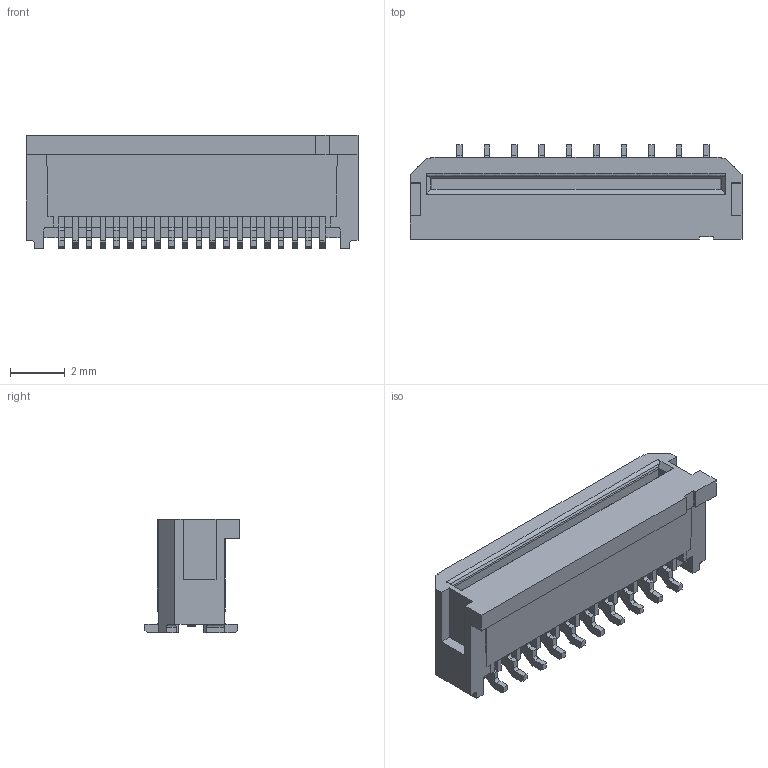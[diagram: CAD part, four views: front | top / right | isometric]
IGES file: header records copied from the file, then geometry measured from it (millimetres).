
Start section: START RECORD GO HERE.
Global section: file name: 00_6244_020_011_xxx_+.igs; native system: DASSAULT SYSTEMES CATIA Version 5-6 Release 2014 - www.3ds.com; preprocessor: V5-6R2014_5.24.4.0.09-01-2014.20.00; author: user; organization: CATIA11; date: 20160408.170947; units: millimetre
Bounding box: 12.1 x 3.45 x 4.13 mm (x, y, z)
Surface area: 327.5 mm2 (no closed solid volume)
Topology: 0 solids, 0 shells, 589 faces, 3688 edges, 3686 vertices
Faces by surface type: plane 539, revolution 50
